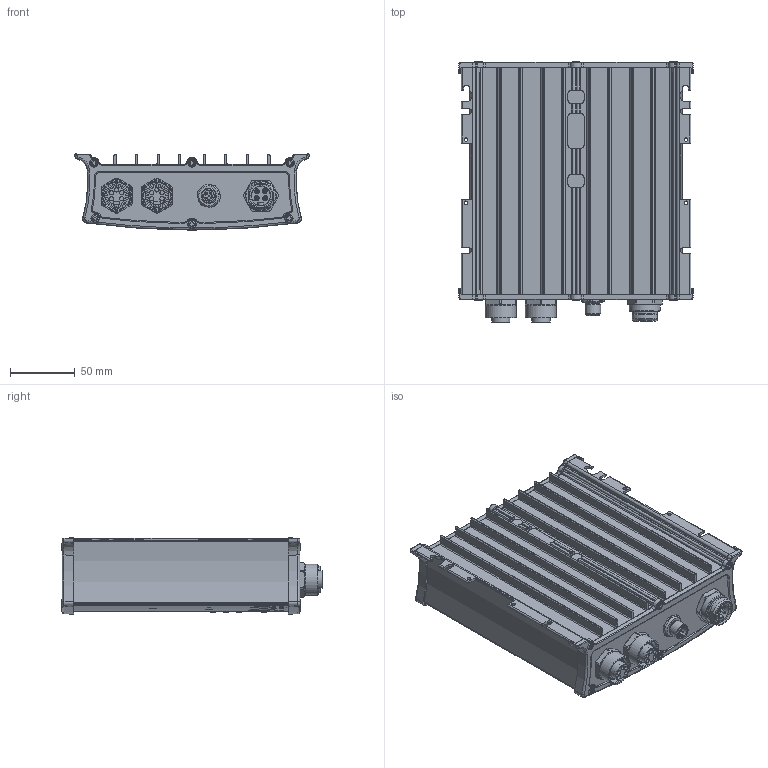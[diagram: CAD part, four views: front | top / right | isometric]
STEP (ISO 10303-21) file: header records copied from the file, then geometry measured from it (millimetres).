
FILE_DESCRIPTION (( 'STEP AP214' ), '1' );
FILE_NAME ('451.58.01.STEP', '2024-07-30T06:19:40', ( '' ), ( '' ), 'SwSTEP 2.0', 'SolidWorks 2024', '' );
FILE_SCHEMA (( 'AUTOMOTIVE_DESIGN' ));
Length unit declared in the file: millimetre
Products named in the file (1): 451.58.01
Bounding box: 180.63 x 200.6 x 58.73 mm (x, y, z)
Volume: 279169.2 mm3; surface area: 353687.7 mm2
Topology: 46 solids, 46 shells, 2521 faces, 7158 edges, 5070 vertices
Faces by surface type: cylinder 924, plane 834, torus 445, cone 226, bspline 88, sphere 4
Full cylindrical faces by diameter (mm): 0.56 x6, 1 x9, 1.3 x10, 1.6 x14, 2 x18, 2.2 x14, 2.4 x4, 2.5 x8, 2.501 x16, 2.52 x2, 2.6 x14, 2.7 x4, 3 x16, 3.3 x10, 3.6 x12, 5 x3, 6 x24, 8.3 x1, 10.5 x1, 10.65 x1, 12 x1, 12.15 x1, 13.4 x1, 13.8 x1, 14 x2, 15.8 x2, 17.8 x1, 18.1 x1, 18.2 x1, 18.3 x2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
Entity records: 137209 total; most frequent: CARTESIAN_POINT 46650, ORIENTED_EDGE 13136, DIRECTION 12310, EDGE_CURVE 6568, AXIS2_PLACEMENT_3D 5050, VERTEX_POINT 4889, EDGE_LOOP 3375, FACE_OUTER_BOUND 2866
